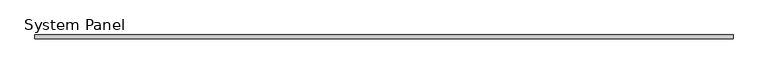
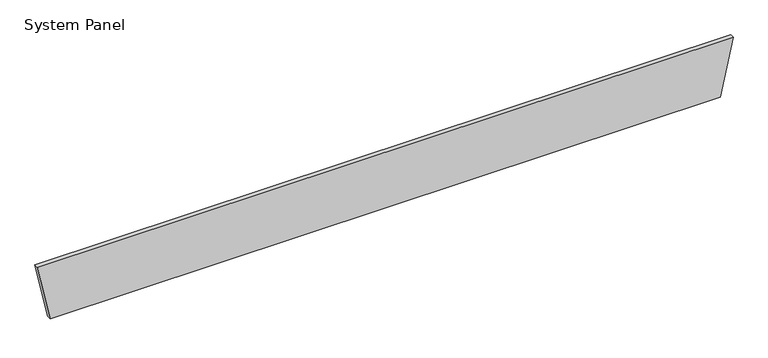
"""IFC4 building model written with IfcOpenShell, lengths in millimetres: plate geometry, System Panel : MetecnoPanel_75mm_Plain_Surfmist."""

from ifc_helpers import new_model, si_unit, frame, origin, place, context, project, spatial, polyline, outline, extrude, source, transform, mapped, element, save


def system_panel_2d74c069(model_context):
    return source(origin(), model_context, "Body", "SweptSolid", [
        extrude(outline(polyline([(0.0, -6239.1323567), (0.0, 6239.1323567), (1100.0, 6478.2647134), (1100.0, -6478.2647134), (0.0, -6239.1323567)])), frame((0.0, -75.0, 0.0), z_axis=(0.0, 1.0, 0.0), x_axis=(0.0, 0.0, 1.0)), (0.0, 0.0, 1.0), 75.0),
    ])


if __name__ == "__main__":
    model = new_model("IFC4")
    model_context = context("Model", 3, world=origin())
    ifc_project = project(units=[si_unit("LENGTHUNIT", "METRE", prefix="MILLI")], contexts=[model_context])
    site = spatial("IfcSite", under=ifc_project)
    building = spatial("IfcBuilding", under=site)
    placement = place(None, origin())
    system_panel_shape = system_panel_2d74c069(model_context)
    element("IfcPlate", 1, ObjectType="System Panel : MetecnoPanel_75mm_Plain_Surfmist", at=placement, inside=building, context=model_context, shape_type="MappedRepresentation", body=[
        mapped(system_panel_shape, transform((0.0, 0.0, 0.0), x_axis=(1.0, 0.0, 0.0), y_axis=(0.0, 1.0, 0.0), z_axis=(0.0, 0.0, 1.0))),
    ])
    save(model, "model.ifc")
